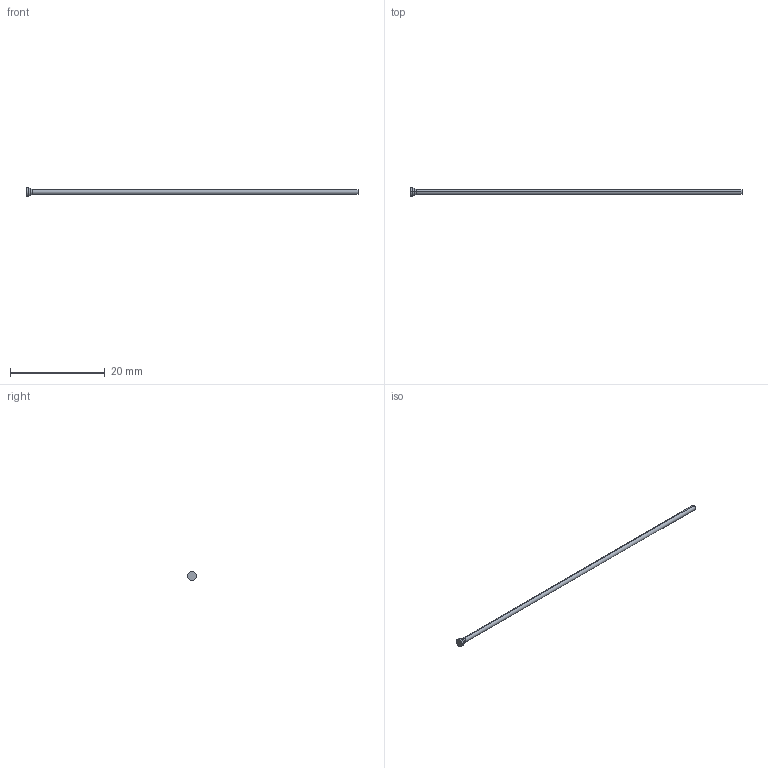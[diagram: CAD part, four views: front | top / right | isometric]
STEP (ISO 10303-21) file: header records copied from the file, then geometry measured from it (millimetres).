
FILE_DESCRIPTION (( 'STEP AP214' ), '1' );
FILE_NAME ('D-1x70.STEP', '2020-06-08T09:48:47', ( 'August' ), ( '' ), 'SwSTEP 2.0', 'SolidWorks 2018', '' );
FILE_SCHEMA (( 'AUTOMOTIVE_DESIGN' ));
Length unit declared in the file: millimetre
Products named in the file (1): D-1x70
Bounding box: 70 x 1.8 x 1.8 mm (x, y, z)
Volume: 56.4 mm3; surface area: 225.8 mm2
Topology: 1 solids, 1 shells, 10 faces, 18 edges, 10 vertices
Faces by surface type: cylinder 4, torus 2, cone 2, plane 2
Entity records: 280 total; most frequent: DIRECTION 52, CARTESIAN_POINT 39, ORIENTED_EDGE 36, AXIS2_PLACEMENT_3D 23, EDGE_CURVE 18, CIRCLE 12, ADVANCED_FACE 10, EDGE_LOOP 10
